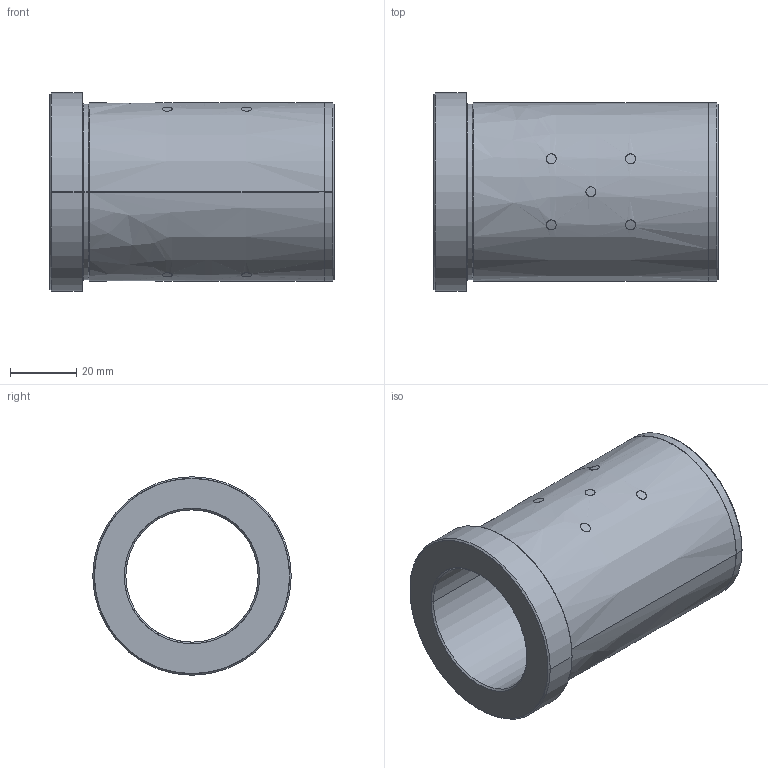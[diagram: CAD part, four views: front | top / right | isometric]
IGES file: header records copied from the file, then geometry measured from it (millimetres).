
Start section: SolidWorks IGES file using analytic representation for surfaces
Global section: file name: C:\Users\Ryan\Documents\PCS\Metric DIN Self Lube Guide Bushings - Without Collar\GDB-ESL-40-086.igs; native system: SolidWorks 2009; preprocessor: SolidWorks 2009; author: Ryan; date: 151215.235903; units: millimetre
Bounding box: 86 x 60 x 60 mm (x, y, z)
Surface area: 28473.6 mm2 (no closed solid volume)
Topology: 0 solids, 0 shells, 38 faces, 1248 edges, 1248 vertices
Faces by surface type: revolution 30, bspline 8
